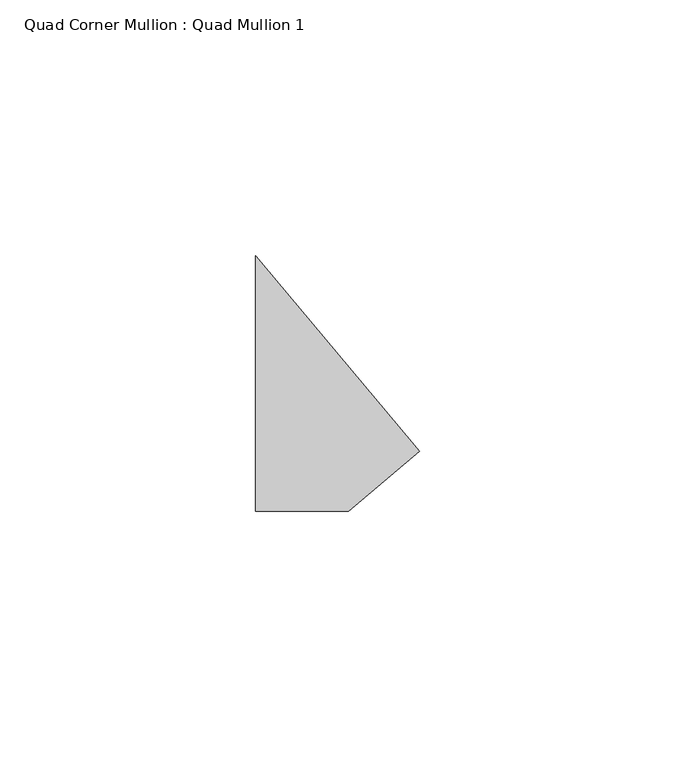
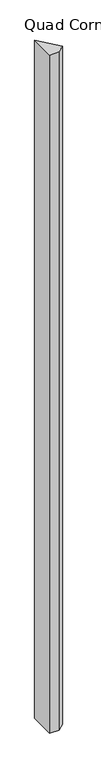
"""IFC4 building model written with IfcOpenShell, lengths in millimetres: member geometry, Quad Corner Mullion : Quad Mullion 1."""

from ifc_helpers import new_model, si_unit, frame, origin, place, context, project, spatial, polyline, outline, extrude, source, transform, mapped, element, save


def quad_corner_mullion_quad_mullion_1_17b728e6(model_context):
    return source(origin(), model_context, "Body", "SweptSolid", [
        extrude(outline(polyline([(23.0401246, -13.3022222), (9.0992559, -25.0), (-9.0992559, -25.0), (-9.0992559, 25.0), (23.0401246, -13.3022222)])), frame((0.0, 0.0, -1400.0), z_axis=(0.0, 0.0, 1.0), x_axis=(1.0, 0.0, 0.0)), (0.0, 0.0, 1.0), 1400.0),
    ])


if __name__ == "__main__":
    model = new_model("IFC4")
    model_context = context("Model", 3, world=origin())
    ifc_project = project(units=[si_unit("LENGTHUNIT", "METRE", prefix="MILLI")], contexts=[model_context])
    site = spatial("IfcSite", under=ifc_project)
    building = spatial("IfcBuilding", under=site)
    placement = place(None, origin())
    quad_corner_mullion_quad_mullion_1_shape = quad_corner_mullion_quad_mullion_1_17b728e6(model_context)
    element("IfcMember", 1, ObjectType="Quad Corner Mullion : Quad Mullion 1", at=placement, inside=building, context=model_context, shape_type="MappedRepresentation", body=[
        mapped(quad_corner_mullion_quad_mullion_1_shape, transform((0.0, 0.0, 0.0), x_axis=(1.0, 0.0, 0.0), y_axis=(0.0, 1.0, 0.0), z_axis=(0.0, 0.0, 1.0))),
    ])
    save(model, "model.ifc")
